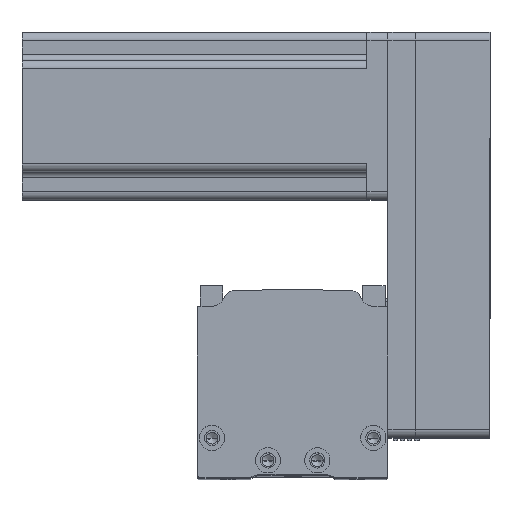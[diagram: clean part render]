
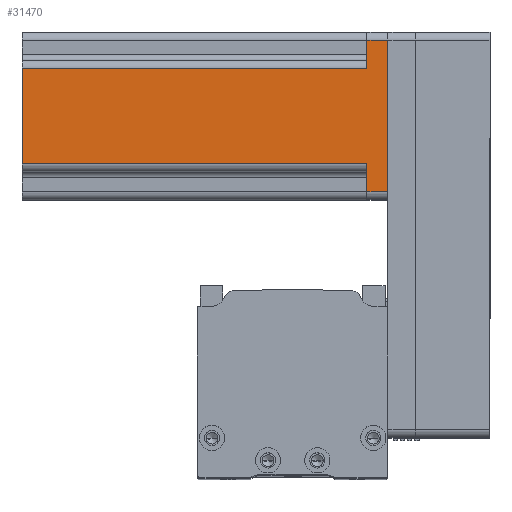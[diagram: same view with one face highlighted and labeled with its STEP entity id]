
A CAD part, top view. The second image highlights one B-rep face of the part: STEP entity #31470.
In plain terms, the highlighted planar face has unit normal (0, 0, 1) as drawn and (0, -1, 0) by its records, which use the part's own axes.
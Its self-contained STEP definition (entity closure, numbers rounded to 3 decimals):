
#582 = ORIENTED_EDGE ( 'NONE', *, *, #9822, .T. ) ;
#880 = AXIS2_PLACEMENT_3D ( 'NONE', #33437, #13323, #36843 ) ;
#3721 = LINE ( 'NONE', #14606, #20571 ) ;
#4765 = ORIENTED_EDGE ( 'NONE', *, *, #40724, .T. ) ;
#5174 = VECTOR ( 'NONE', #18534, 1000. ) ;
#6541 = CARTESIAN_POINT ( 'NONE',  ( 17., -30., 7.5 ) ) ;
#6897 = EDGE_CURVE ( 'NONE', #37361, #18887, #20849, .T. ) ;
#7276 = VECTOR ( 'NONE', #29804, 1000. ) ;
#8378 = VERTEX_POINT ( 'NONE', #41070 ) ;
#8878 = CARTESIAN_POINT ( 'NONE',  ( -27., -30., 0. ) ) ;
#8995 = EDGE_LOOP ( 'NONE', ( #27165, #582, #17968, #21089, #9745, #4765, #38324, #26369 ) ) ;
#9745 = ORIENTED_EDGE ( 'NONE', *, *, #43092, .T. ) ;
#9822 = EDGE_CURVE ( 'NONE', #39397, #25092, #27613, .T. ) ;
#10288 = VECTOR ( 'NONE', #13434, 1000. ) ;
#11006 = CARTESIAN_POINT ( 'NONE',  ( -17., -30., 7.5 ) ) ;
#12008 = CARTESIAN_POINT ( 'NONE',  ( -17., -30., 130.7 ) ) ;
#13323 = DIRECTION ( 'NONE',  ( 0., 1., 0. ) ) ;
#13434 = DIRECTION ( 'NONE',  ( 1., 0., 0. ) ) ;
#13595 = DIRECTION ( 'NONE',  ( 0., 0., 1. ) ) ;
#14606 = CARTESIAN_POINT ( 'NONE',  ( 30., -30., 130.7 ) ) ;
#15510 = LINE ( 'NONE', #26953, #32331 ) ;
#16143 = LINE ( 'NONE', #35937, #32980 ) ;
#16814 = CARTESIAN_POINT ( 'NONE',  ( -20., -30., 7.5 ) ) ;
#17920 = VERTEX_POINT ( 'NONE', #26749 ) ;
#17968 = ORIENTED_EDGE ( 'NONE', *, *, #22056, .F. ) ;
#18534 = DIRECTION ( 'NONE',  ( 1., 0., 0. ) ) ;
#18705 = VECTOR ( 'NONE', #35669, 1000. ) ;
#18887 = VERTEX_POINT ( 'NONE', #6541 ) ;
#20460 = EDGE_CURVE ( 'NONE', #39397, #33496, #3721, .T. ) ;
#20571 = VECTOR ( 'NONE', #21269, 1000. ) ;
#20849 = LINE ( 'NONE', #39095, #29746 ) ;
#21089 = ORIENTED_EDGE ( 'NONE', *, *, #31950, .T. ) ;
#21269 = DIRECTION ( 'NONE',  ( 1., 0., 0. ) ) ;
#21357 = EDGE_CURVE ( 'NONE', #18887, #33496, #25178, .T. ) ;
#22056 = EDGE_CURVE ( 'NONE', #17920, #25092, #37188, .T. ) ;
#23172 = PLANE ( 'NONE',  #880 ) ;
#25092 = VERTEX_POINT ( 'NONE', #11006 ) ;
#25178 = LINE ( 'NONE', #26391, #7276 ) ;
#26369 = ORIENTED_EDGE ( 'NONE', *, *, #21357, .T. ) ;
#26391 = CARTESIAN_POINT ( 'NONE',  ( 17., -30., 130.7 ) ) ;
#26749 = CARTESIAN_POINT ( 'NONE',  ( -27., -30., 7.5 ) ) ;
#26953 = CARTESIAN_POINT ( 'NONE',  ( 27., -30., 130.7 ) ) ;
#27165 = ORIENTED_EDGE ( 'NONE', *, *, #20460, .F. ) ;
#27613 = LINE ( 'NONE', #12008, #18705 ) ;
#28593 = VERTEX_POINT ( 'NONE', #8878 ) ;
#29156 = CARTESIAN_POINT ( 'NONE',  ( 17., -30., 130.7 ) ) ;
#29746 = VECTOR ( 'NONE', #32400, 1000. ) ;
#29804 = DIRECTION ( 'NONE',  ( 0., 0., 1. ) ) ;
#29889 = FACE_OUTER_BOUND ( 'NONE', #8995, .T. ) ;
#30940 = LINE ( 'NONE', #38730, #5174 ) ;
#31470 = ADVANCED_FACE ( 'NONE', ( #29889 ), #23172, .F. ) ;
#31950 = EDGE_CURVE ( 'NONE', #17920, #28593, #16143, .T. ) ;
#32331 = VECTOR ( 'NONE', #13595, 1000. ) ;
#32400 = DIRECTION ( 'NONE',  ( -1., 0., 0. ) ) ;
#32548 = DIRECTION ( 'NONE',  ( 0., 0., -1. ) ) ;
#32980 = VECTOR ( 'NONE', #32548, 1000. ) ;
#33437 = CARTESIAN_POINT ( 'NONE',  ( 30., -30., 130.7 ) ) ;
#33496 = VERTEX_POINT ( 'NONE', #29156 ) ;
#34355 = CARTESIAN_POINT ( 'NONE',  ( -17., -30., 130.7 ) ) ;
#35669 = DIRECTION ( 'NONE',  ( 0., 0., -1. ) ) ;
#35937 = CARTESIAN_POINT ( 'NONE',  ( -27., -30., 130.7 ) ) ;
#36843 = DIRECTION ( 'NONE',  ( -1., 0., 0. ) ) ;
#37188 = LINE ( 'NONE', #16814, #10288 ) ;
#37361 = VERTEX_POINT ( 'NONE', #38605 ) ;
#38324 = ORIENTED_EDGE ( 'NONE', *, *, #6897, .T. ) ;
#38605 = CARTESIAN_POINT ( 'NONE',  ( 27., -30., 7.5 ) ) ;
#38730 = CARTESIAN_POINT ( 'NONE',  ( 30., -30., 0. ) ) ;
#39095 = CARTESIAN_POINT ( 'NONE',  ( 20., -30., 7.5 ) ) ;
#39397 = VERTEX_POINT ( 'NONE', #34355 ) ;
#40724 = EDGE_CURVE ( 'NONE', #8378, #37361, #15510, .T. ) ;
#41070 = CARTESIAN_POINT ( 'NONE',  ( 27., -30., 0. ) ) ;
#43092 = EDGE_CURVE ( 'NONE', #28593, #8378, #30940, .T. ) ;
